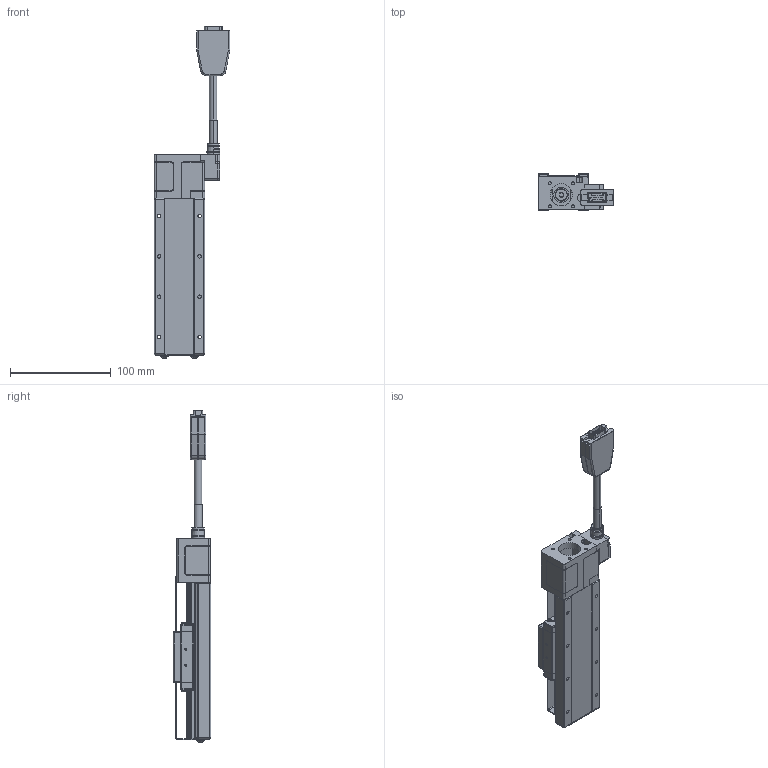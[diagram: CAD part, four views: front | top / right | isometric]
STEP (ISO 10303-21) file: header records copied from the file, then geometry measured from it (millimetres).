
FILE_DESCRIPTION (( 'STEP AP203' ), '1' );
FILE_NAME ('CXC5075-S2?N(42框無馬達).', '2024-01-05T02:58:30', ( '' ), ( '' ), 'SwSTEP 2.0', 'SolidWorks 2019', '' );
FILE_SCHEMA (( 'CONFIG_CONTROL_DESIGN' ));
Products named in the file (8): CXC5075-S2OPAN-303_50; SC03B008_SUS304(鍍鋅黑); SG02B004_SCM435(化鎳); Group2^CXN5075-S2?N(42框無馬達)_defeature_GMT; SD04B006_SD04B006-SCM435(化鎳); Group1^CXN5075-S2?N(42框無馬達)_defeature_GMT; CXC5075-S2?N(42框無馬達); CXC50-102-10
Assembly tree (13 placements, depth 2):
  CXC5075-S2?N(42框無馬達)
    Group1^CXN5075-S2?N(42框無馬達)_defeature_GMT
    Group2^CXN5075-S2?N(42框無馬達)_defeature_GMT
    CXC5075-S2OPAN-303_50
    CXC50-102-10  x2
    SG02B004_SCM435(化鎳)  x2
    SD04B006_SD04B006-SCM435(化鎳)  x2
    SC03B008_SUS304(鍍鋅黑)  x4
Bounding box: 75 x 37 x 328.8 mm (x, y, z)
Volume: 43846.5 mm3; surface area: 106649.9 mm2
Topology: 13 solids, 19 shells, 6484 faces, 16590 edges, 10187 vertices
Faces by surface type: plane 3013, bspline 1450, cylinder 1400, cone 225, torus 224, sphere 172
Entity records: 211544 total; most frequent: CARTESIAN_POINT 70973, ORIENTED_EDGE 31650, DIRECTION 24402, EDGE_CURVE 15825, VERTEX_POINT 9864, LINE 8496, VECTOR 8496, AXIS2_PLACEMENT_3D 7953
